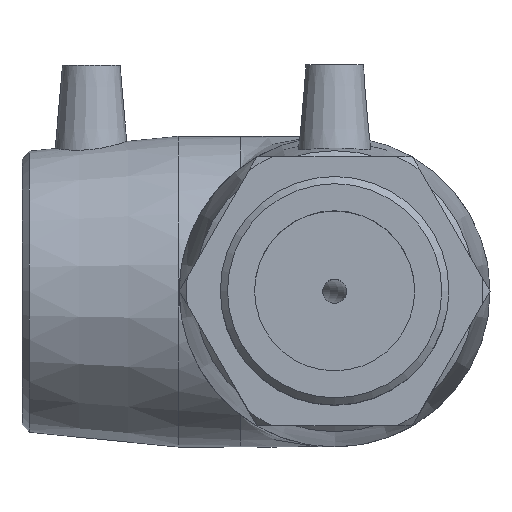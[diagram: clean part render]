
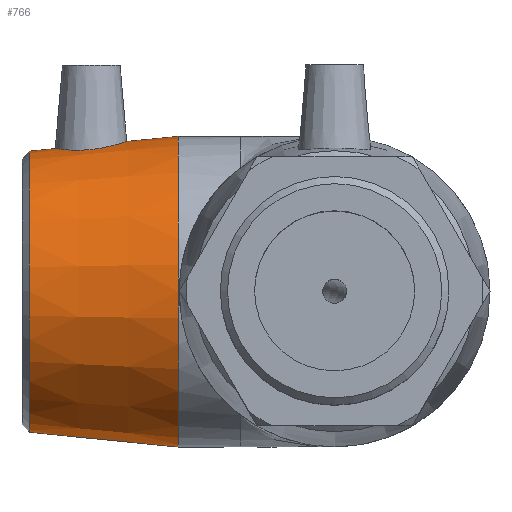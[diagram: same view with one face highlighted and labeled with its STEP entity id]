
A CAD part, top view. The second image highlights one B-rep face of the part: STEP entity #766.
In plain terms, the highlighted conical face has half-angle 5.687 degrees and reference radius 38.475 mm.
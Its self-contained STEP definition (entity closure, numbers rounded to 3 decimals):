
#78=B_SPLINE_CURVE_WITH_KNOTS('',3,(#1229,#1230,#1231,#1232,#1233,#1234,
#1235,#1236,#1237,#1238,#1239,#1240,#1241,#1242,#1243,#1244,#1245,#1246,
#1247,#1248,#1249,#1250,#1251,#1252,#1253,#1254,#1255,#1256,#1257,#1258,
#1259,#1260,#1261,#1262),.UNSPECIFIED.,.T.,.F.,(4,2,2,2,2,2,2,2,2,2,2,2,
2,2,2,2,4),(0.,0.347,0.693,1.042,1.391,
1.74,2.088,2.435,2.782,3.148,
3.514,3.874,4.233,4.593,4.953,
5.319,5.685),.UNSPECIFIED.);
#82=CONICAL_SURFACE('',#839,38.475,5.687);
#133=FACE_BOUND('',#243,.T.);
#134=FACE_BOUND('',#244,.T.);
#175=FACE_OUTER_BOUND('',#242,.T.);
#242=EDGE_LOOP('',(#568));
#243=EDGE_LOOP('',(#569));
#244=EDGE_LOOP('',(#570));
#338=CIRCLE('',#838,36.637);
#339=CIRCLE('',#840,40.5);
#389=VERTEX_POINT('',#1223);
#390=VERTEX_POINT('',#1226);
#391=VERTEX_POINT('',#1228);
#466=EDGE_CURVE('',#389,#389,#338,.T.);
#467=EDGE_CURVE('',#390,#390,#339,.T.);
#468=EDGE_CURVE('',#391,#391,#78,.T.);
#568=ORIENTED_EDGE('',*,*,#467,.F.);
#569=ORIENTED_EDGE('',*,*,#468,.T.);
#570=ORIENTED_EDGE('',*,*,#466,.F.);
#766=ADVANCED_FACE('',(#175,#133,#134),#82,.T.);
#838=AXIS2_PLACEMENT_3D('',#1224,#968,#969);
#839=AXIS2_PLACEMENT_3D('',#1225,#970,#971);
#840=AXIS2_PLACEMENT_3D('',#1227,#972,#973);
#968=DIRECTION('center_axis',(-1.,0.,0.));
#969=DIRECTION('ref_axis',(0.,-1.,0.));
#970=DIRECTION('center_axis',(1.,0.,0.));
#971=DIRECTION('ref_axis',(0.,1.,0.));
#972=DIRECTION('center_axis',(1.,0.,0.));
#973=DIRECTION('ref_axis',(0.,0.,-1.));
#1223=CARTESIAN_POINT('',(-79.619,36.637,0.));
#1224=CARTESIAN_POINT('Origin',(-79.619,0.,0.));
#1225=CARTESIAN_POINT('Origin',(-61.167,0.,
0.));
#1226=CARTESIAN_POINT('',(-40.833,40.5,0.));
#1227=CARTESIAN_POINT('Origin',(-40.833,0.,
0.));
#1228=CARTESIAN_POINT('',(-63.751,37.04,9.416));
#1229=CARTESIAN_POINT('Ctrl Pts',(-63.751,37.04,9.416));
#1230=CARTESIAN_POINT('Ctrl Pts',(-64.901,36.929,9.388));
#1231=CARTESIAN_POINT('Ctrl Pts',(-66.125,36.871,9.129));
#1232=CARTESIAN_POINT('Ctrl Pts',(-68.369,36.873,8.139));
#1233=CARTESIAN_POINT('Ctrl Pts',(-69.388,36.929,7.409));
#1234=CARTESIAN_POINT('Ctrl Pts',(-70.995,37.063,5.744));
#1235=CARTESIAN_POINT('Ctrl Pts',(-71.691,37.149,4.694));
#1236=CARTESIAN_POINT('Ctrl Pts',(-72.612,37.275,2.403));
#1237=CARTESIAN_POINT('Ctrl Pts',(-72.837,37.313,1.162));
#1238=CARTESIAN_POINT('Ctrl Pts',(-72.837,37.313,-1.162));
#1239=CARTESIAN_POINT('Ctrl Pts',(-72.612,37.275,-2.403));
#1240=CARTESIAN_POINT('Ctrl Pts',(-71.691,37.149,-4.694));
#1241=CARTESIAN_POINT('Ctrl Pts',(-70.995,37.063,-5.744));
#1242=CARTESIAN_POINT('Ctrl Pts',(-69.388,36.929,-7.409));
#1243=CARTESIAN_POINT('Ctrl Pts',(-68.369,36.873,-8.139));
#1244=CARTESIAN_POINT('Ctrl Pts',(-66.125,36.871,-9.129));
#1245=CARTESIAN_POINT('Ctrl Pts',(-64.901,36.929,-9.388));
#1246=CARTESIAN_POINT('Ctrl Pts',(-62.535,37.157,-9.446));
#1247=CARTESIAN_POINT('Ctrl Pts',(-61.247,37.349,-9.223));
#1248=CARTESIAN_POINT('Ctrl Pts',(-58.887,37.812,-8.269));
#1249=CARTESIAN_POINT('Ctrl Pts',(-57.813,38.08,-7.539));
#1250=CARTESIAN_POINT('Ctrl Pts',(-56.135,38.543,-5.858));
#1251=CARTESIAN_POINT('Ctrl Pts',(-55.411,38.77,-4.801));
#1252=CARTESIAN_POINT('Ctrl Pts',(-54.445,39.084,-2.471));
#1253=CARTESIAN_POINT('Ctrl Pts',(-54.205,39.168,-1.199));
#1254=CARTESIAN_POINT('Ctrl Pts',(-54.205,39.168,1.199));
#1255=CARTESIAN_POINT('Ctrl Pts',(-54.445,39.084,2.471));
#1256=CARTESIAN_POINT('Ctrl Pts',(-55.411,38.77,4.801));
#1257=CARTESIAN_POINT('Ctrl Pts',(-56.135,38.543,5.858));
#1258=CARTESIAN_POINT('Ctrl Pts',(-57.813,38.08,7.539));
#1259=CARTESIAN_POINT('Ctrl Pts',(-58.887,37.812,8.269));
#1260=CARTESIAN_POINT('Ctrl Pts',(-61.247,37.349,9.223));
#1261=CARTESIAN_POINT('Ctrl Pts',(-62.535,37.157,9.446));
#1262=CARTESIAN_POINT('Ctrl Pts',(-63.751,37.04,9.416));
